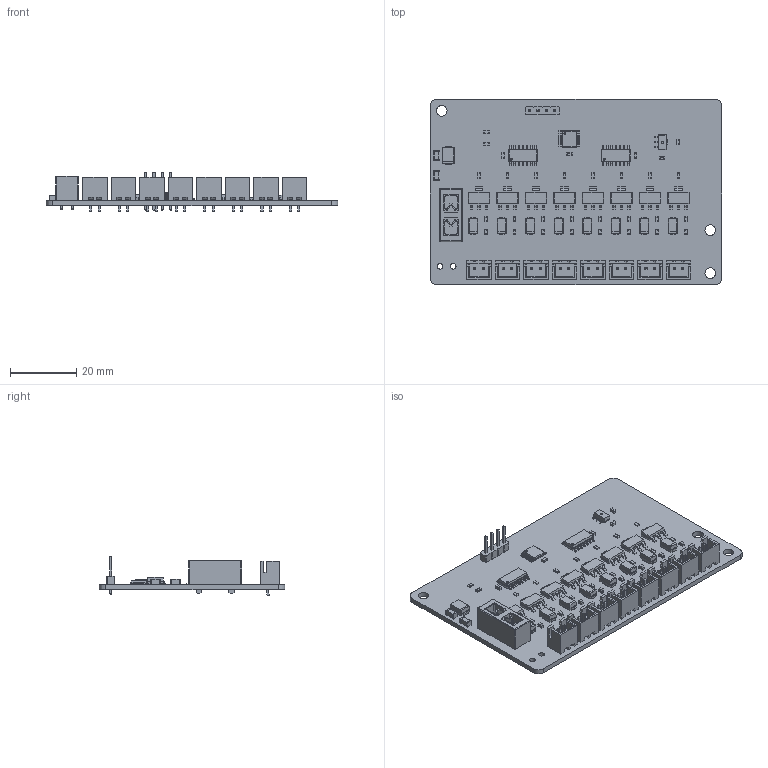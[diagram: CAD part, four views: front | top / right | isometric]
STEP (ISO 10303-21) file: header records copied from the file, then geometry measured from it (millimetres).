
FILE_DESCRIPTION(('KiCad electronic assembly'),'2;1');
FILE_NAME('AP_DO8.step','2026-10-10T00:11:20',('Pcbnew'),('Kicad'), 'Open CASCADE STEP processor 7.6','KiCad to STEP converter','Unknown' );
FILE_SCHEMA(('AUTOMOTIVE_DESIGN { 1 0 10303 214 1 1 1 1 }'));
Length unit declared in the file: millimetre
Products named in the file (16): AP_DO8 1; R_0603_1608Metric; SOT-223; SOIC-14_3.9x8.7mm_P1.27mm; C_0603_1608Metric; Fuseholder_Blade_Mini_Keystone_3568; D_SMA; D_SMB; JST_XH_B2B-XH-A_1x02_P2.50mm_Vertical; LED_0603_1608Metric; C_1206_3216Metric; TSSOP-16_4.4x5mm_P0.65mm; SOT-89-3; AP_DO8 1.51.1; PinHeader_1x04_P2.54mm_Vertical; AP_DO8_PCB
Assembly tree (66 placements, depth 3):
  AP_DO8 1
    R_0603_1608Metric  x18
    SOT-223  x8
    SOIC-14_3.9x8.7mm_P1.27mm  x2
    C_0603_1608Metric  x5
    Fuseholder_Blade_Mini_Keystone_3568
    D_SMA  x8
    D_SMB
    JST_XH_B2B-XH-A_1x02_P2.50mm_Vertical  x8
    LED_0603_1608Metric  x8
    C_1206_3216Metric  x2
    TSSOP-16_4.4x5mm_P0.65mm
    SOT-89-3
      AP_DO8 1.51.1
    PinHeader_1x04_P2.54mm_Vertical
    AP_DO8_PCB
Bounding box: 88 x 56 x 11.94 mm (x, y, z)
Volume: 10089.8 mm3; surface area: 16560 mm2
Topology: 69 solids, 69 shells, 3834 faces, 10085 edges, 6464 vertices
Faces by surface type: plane 2775, cylinder 733, bspline 322, sphere 4
Full cylindrical faces by diameter (mm): 0.5 x1, 0.6 x2, 0.7 x1, 1 x20, 1.7 x2, 1.78 x4, 3.2 x3
Entity records: 37225 total; most frequent: CARTESIAN_POINT 6907, ORIENTED_EDGE 6344, DIRECTION 5928, EDGE_CURVE 3170, LINE 2526, VECTOR 2526, VERTEX_POINT 2032, AXIS2_PLACEMENT_3D 1701
